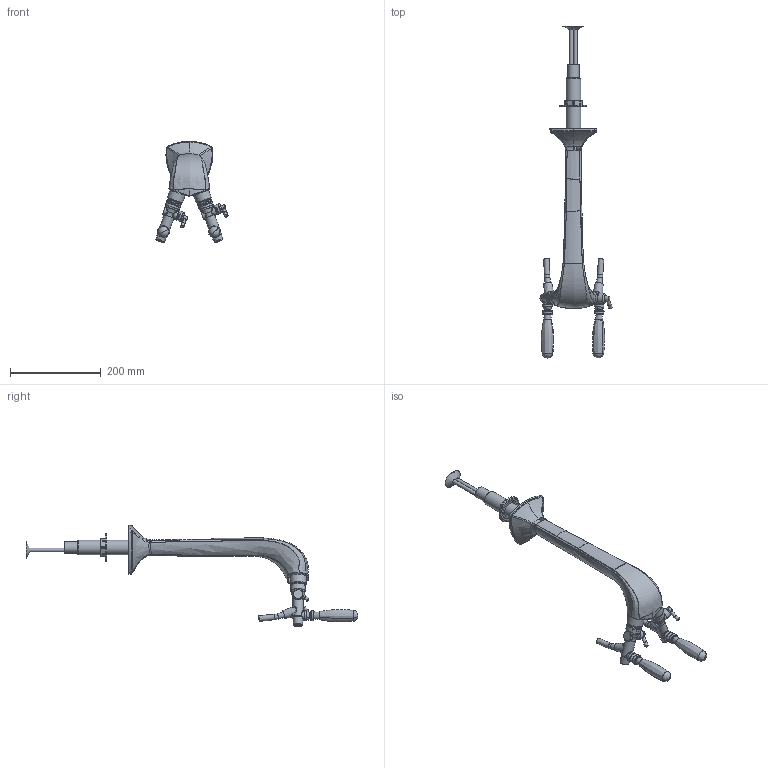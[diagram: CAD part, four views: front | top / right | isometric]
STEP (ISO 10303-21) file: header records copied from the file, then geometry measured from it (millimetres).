
FILE_DESCRIPTION(/* description */ ('STEP AP214'),/* implementation_level */ '2;1');
FILE_NAME(/* name */ '6824635241c09c407e971d00',/* time_stamp */ '2025-05-14T09:33:09Z',/* author */ (''),/* organization */ (''),/* preprocessor_version */ 'ST-DEVELOPER v20',/* originating_system */ 'ONSHAPE BY PTC INC, 1.197',/* authorisation */ ' ');
FILE_SCHEMA (('AUTOMOTIVE_DESIGN {1 0 10303 214 3 1 1}'));
Products named in the file (39): C2 Asm
Bounding box: 158.85 x 732.11 x 223.54 mm (x, y, z)
Volume: 285191.8 mm3; surface area: 326325.7 mm2
Topology: 32 solids, 40 shells, 1508 faces, 3785 edges, 2388 vertices
Faces by surface type: plane 392, bspline 378, cylinder 378, torus 190, cone 104, sphere 66
Full cylindrical faces by diameter (mm): 4 x2, 4.2 x2, 5 x4, 6.98 x2, 7 x4, 8 x6, 8.376 x2, 9.303 x2, 10 x10, 10.5 x2, 10.7 x2, 11.02 x2, 11.4 x2, 11.9 x2, 12 x6, 12.7 x2, 13 x2, 13.2 x2, 13.48 x2, 13.5 x2, 14 x3, 14.2 x2, 15 x2, 15.1 x2, 16.9 x2, 17 x2, 18 x2, 18.5 x2, 19.85 x2, 20 x7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
Entity records: 84272 total; most frequent: CARTESIAN_POINT 52665, ORIENTED_EDGE 6674, DIRECTION 5406, EDGE_CURVE 3435, AXIS2_PLACEMENT_3D 2411, VERTEX_POINT 2303, FACE_BOUND 1865, EDGE_LOOP 1856
